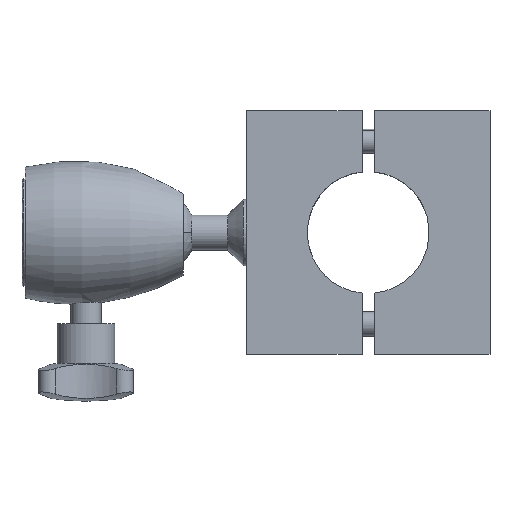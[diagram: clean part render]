
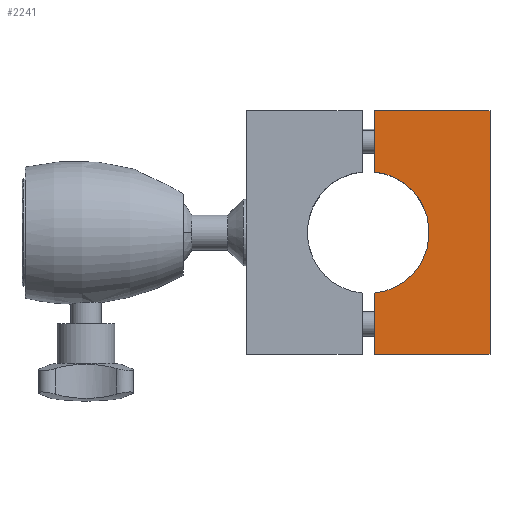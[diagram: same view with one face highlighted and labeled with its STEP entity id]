
A CAD part, top view. The second image highlights one B-rep face of the part: STEP entity #2241.
In plain terms, the highlighted planar face has unit normal (0, 0, 1).
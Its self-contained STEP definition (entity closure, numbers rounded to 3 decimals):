
#379 = LINE ( 'NONE', #3595, #391 ) ;
#391 = VECTOR ( 'NONE', #3463, 1000. ) ;
#395 = VECTOR ( 'NONE', #3319, 1000. ) ;
#425 = LINE ( 'NONE', #3390, #395 ) ;
#434 = PLANE ( 'NONE',  #4072 ) ;
#440 = CARTESIAN_POINT ( 'NONE',  ( -20., -20., 7.5 ) ) ;
#532 = LINE ( 'NONE', #3709, #558 ) ;
#558 = VECTOR ( 'NONE', #3635, 1000. ) ;
#1069 = ORIENTED_EDGE ( 'NONE', *, *, #4230, .F. ) ;
#1077 = ORIENTED_EDGE ( 'NONE', *, *, #4282, .T. ) ;
#1087 = ORIENTED_EDGE ( 'NONE', *, *, #4427, .F. ) ;
#1088 = ORIENTED_EDGE ( 'NONE', *, *, #4239, .F. ) ;
#1106 = ORIENTED_EDGE ( 'NONE', *, *, #4251, .T. ) ;
#1110 = ORIENTED_EDGE ( 'NONE', *, *, #4285, .T. ) ;
#1375 = EDGE_LOOP ( 'NONE', ( #1069, #1106, #1110, #1077, #1088, #1087 ) ) ;
#1649 = FACE_OUTER_BOUND ( 'NONE', #1375, .T. ) ;
#1906 = CIRCLE ( 'NONE', #4943, 10. ) ;
#2241 = ADVANCED_FACE ( 'NONE', ( #1649 ), #434, .T. ) ;
#2604 = CARTESIAN_POINT ( 'NONE',  ( 0., 0., 7.5 ) ) ;
#2610 = DIRECTION ( 'NONE',  ( 1., 0., 0. ) ) ;
#2617 = DIRECTION ( 'NONE',  ( 0., 0., 1. ) ) ;
#2665 = CARTESIAN_POINT ( 'NONE',  ( -20., 1., 7.5 ) ) ;
#2716 = CARTESIAN_POINT ( 'NONE',  ( 20., 1., 7.5 ) ) ;
#2722 = CARTESIAN_POINT ( 'NONE',  ( -9.95, 1., 7.5 ) ) ;
#2744 = LINE ( 'NONE', #3361, #2970 ) ;
#2765 = LINE ( 'NONE', #3623, #2972 ) ;
#2813 = CARTESIAN_POINT ( 'NONE',  ( 20., 20., 7.5 ) ) ;
#2900 = CARTESIAN_POINT ( 'NONE',  ( -20., 20., 7.5 ) ) ;
#2926 = CARTESIAN_POINT ( 'NONE',  ( 9.95, 1., 7.5 ) ) ;
#2970 = VECTOR ( 'NONE', #3468, 1000. ) ;
#2972 = VECTOR ( 'NONE', #3512, 1000. ) ;
#3319 = DIRECTION ( 'NONE',  ( -1., 0., 0. ) ) ;
#3361 = CARTESIAN_POINT ( 'NONE',  ( -20., 20., 7.5 ) ) ;
#3390 = CARTESIAN_POINT ( 'NONE',  ( -20., 1., 7.5 ) ) ;
#3463 = DIRECTION ( 'NONE',  ( -1., 0., 0. ) ) ;
#3468 = DIRECTION ( 'NONE',  ( 0., -1., 0. ) ) ;
#3512 = DIRECTION ( 'NONE',  ( -1., 0., 0. ) ) ;
#3595 = CARTESIAN_POINT ( 'NONE',  ( -20., 1., 7.5 ) ) ;
#3623 = CARTESIAN_POINT ( 'NONE',  ( -20., 20., 7.5 ) ) ;
#3635 = DIRECTION ( 'NONE',  ( 0., 1., 0. ) ) ;
#3709 = CARTESIAN_POINT ( 'NONE',  ( 20., 20., 7.5 ) ) ;
#4072 = AXIS2_PLACEMENT_3D ( 'NONE', #440, #4831, #4885 ) ;
#4230 = EDGE_CURVE ( 'NONE', #4729, #4777, #425, .T. ) ;
#4239 = EDGE_CURVE ( 'NONE', #4701, #4577, #379, .T. ) ;
#4251 = EDGE_CURVE ( 'NONE', #4729, #4741, #532, .T. ) ;
#4282 = EDGE_CURVE ( 'NONE', #4627, #4577, #2744, .T. ) ;
#4285 = EDGE_CURVE ( 'NONE', #4741, #4627, #2765, .T. ) ;
#4427 = EDGE_CURVE ( 'NONE', #4777, #4701, #1906, .T. ) ;
#4577 = VERTEX_POINT ( 'NONE', #2665 ) ;
#4627 = VERTEX_POINT ( 'NONE', #2900 ) ;
#4701 = VERTEX_POINT ( 'NONE', #2722 ) ;
#4729 = VERTEX_POINT ( 'NONE', #2716 ) ;
#4741 = VERTEX_POINT ( 'NONE', #2813 ) ;
#4777 = VERTEX_POINT ( 'NONE', #2926 ) ;
#4831 = DIRECTION ( 'NONE',  ( 0., 0., 1. ) ) ;
#4885 = DIRECTION ( 'NONE',  ( 1., 0., 0. ) ) ;
#4943 = AXIS2_PLACEMENT_3D ( 'NONE', #2604, #2617, #2610 ) ;
